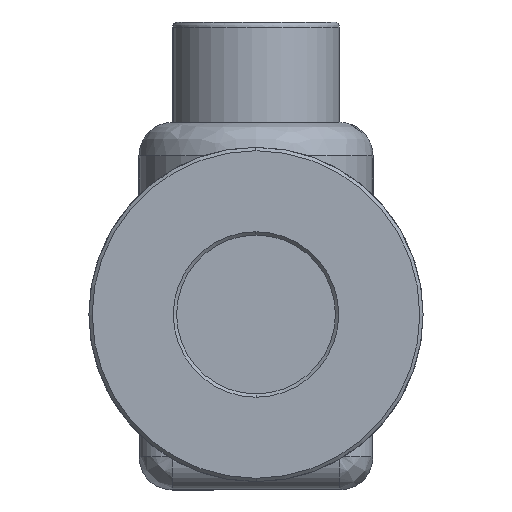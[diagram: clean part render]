
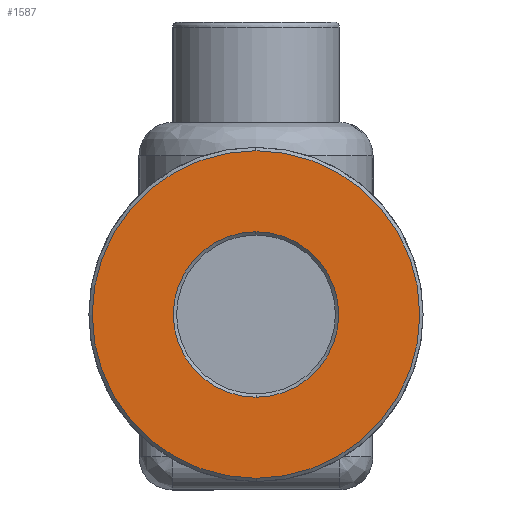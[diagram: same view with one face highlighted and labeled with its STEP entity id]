
A CAD part, front view. The second image highlights one B-rep face of the part: STEP entity #1587.
In plain terms, the highlighted planar face has unit normal (0, -1, 0).
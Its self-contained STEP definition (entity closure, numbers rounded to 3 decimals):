
#42 = DIRECTION ( 'NONE',  ( 0., 0., -1. ) ) ;
#851 = CIRCLE ( 'NONE', #11606, 9.8 ) ;
#1587 = ADVANCED_FACE ( 'NONE', ( #2800, #4685 ), #13107, .F. ) ;
#1672 = CARTESIAN_POINT ( 'NONE',  ( -7., -111., -11.5 ) ) ;
#2030 = CARTESIAN_POINT ( 'NONE',  ( -7., -111., -6.55 ) ) ;
#2497 = VERTEX_POINT ( 'NONE', #13704 ) ;
#2650 = CIRCLE ( 'NONE', #13022, 9.8 ) ;
#2800 = FACE_BOUND ( 'NONE', #4635, .T. ) ;
#3042 = DIRECTION ( 'NONE',  ( 0., 0., -1. ) ) ;
#3372 = ORIENTED_EDGE ( 'NONE', *, *, #12909, .F. ) ;
#3809 = CARTESIAN_POINT ( 'NONE',  ( -7., -111., -11.5 ) ) ;
#4013 = CARTESIAN_POINT ( 'NONE',  ( -6.999, -111., -21.3 ) ) ;
#4086 = ORIENTED_EDGE ( 'NONE', *, *, #16644, .F. ) ;
#4115 = CIRCLE ( 'NONE', #16380, 4.95 ) ;
#4634 = EDGE_LOOP ( 'NONE', ( #5835, #16101 ) ) ;
#4635 = EDGE_LOOP ( 'NONE', ( #3372, #4086 ) ) ;
#4685 = FACE_OUTER_BOUND ( 'NONE', #4634, .T. ) ;
#4725 = EDGE_CURVE ( 'NONE', #12336, #2497, #851, .T. ) ;
#4971 = AXIS2_PLACEMENT_3D ( 'NONE', #14523, #6555, #15862 ) ;
#5145 = DIRECTION ( 'NONE',  ( 0., 0., 1. ) ) ;
#5504 = AXIS2_PLACEMENT_3D ( 'NONE', #16003, #8036, #42 ) ;
#5614 = CIRCLE ( 'NONE', #5504, 4.95 ) ;
#5835 = ORIENTED_EDGE ( 'NONE', *, *, #7943, .F. ) ;
#6555 = DIRECTION ( 'NONE',  ( 0., 1., 0. ) ) ;
#6595 = DIRECTION ( 'NONE',  ( 0., 1., 0. ) ) ;
#7943 = EDGE_CURVE ( 'NONE', #2497, #12336, #2650, .T. ) ;
#8036 = DIRECTION ( 'NONE',  ( 0., -1., 0. ) ) ;
#10365 = CARTESIAN_POINT ( 'NONE',  ( -7., -111., -16.45 ) ) ;
#10479 = VERTEX_POINT ( 'NONE', #10365 ) ;
#10975 = DIRECTION ( 'NONE',  ( 0., -1., 0. ) ) ;
#11606 = AXIS2_PLACEMENT_3D ( 'NONE', #3809, #13103, #5145 ) ;
#12098 = VERTEX_POINT ( 'NONE', #2030 ) ;
#12336 = VERTEX_POINT ( 'NONE', #4013 ) ;
#12909 = EDGE_CURVE ( 'NONE', #10479, #12098, #4115, .T. ) ;
#13022 = AXIS2_PLACEMENT_3D ( 'NONE', #14569, #6595, #15899 ) ;
#13103 = DIRECTION ( 'NONE',  ( 0., 1., 0. ) ) ;
#13107 = PLANE ( 'NONE',  #4971 ) ;
#13704 = CARTESIAN_POINT ( 'NONE',  ( -7.001, -111., -1.7 ) ) ;
#14523 = CARTESIAN_POINT ( 'NONE',  ( -16.917, -111., -21.418 ) ) ;
#14569 = CARTESIAN_POINT ( 'NONE',  ( -7., -111., -11.5 ) ) ;
#15862 = DIRECTION ( 'NONE',  ( 0., 0., 1. ) ) ;
#15899 = DIRECTION ( 'NONE',  ( 0., 0., 1. ) ) ;
#16003 = CARTESIAN_POINT ( 'NONE',  ( -7., -111., -11.5 ) ) ;
#16101 = ORIENTED_EDGE ( 'NONE', *, *, #4725, .F. ) ;
#16380 = AXIS2_PLACEMENT_3D ( 'NONE', #1672, #10975, #3042 ) ;
#16644 = EDGE_CURVE ( 'NONE', #12098, #10479, #5614, .T. ) ;
